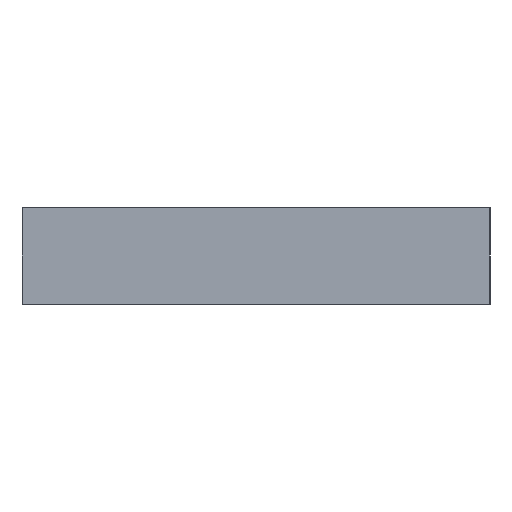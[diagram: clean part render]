
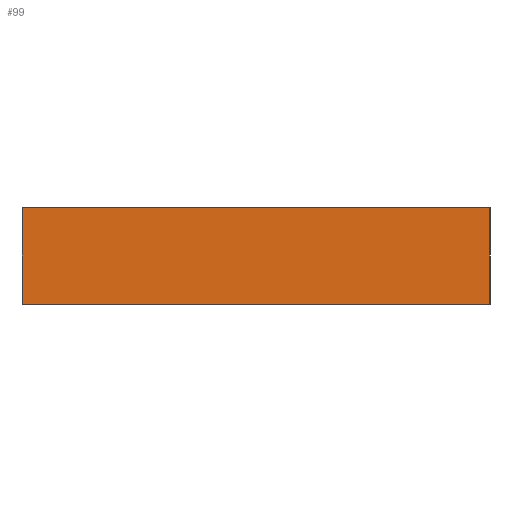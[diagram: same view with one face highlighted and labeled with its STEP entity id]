
A CAD part, left-side view. The second image highlights one B-rep face of the part: STEP entity #99.
In plain terms, the highlighted planar face has unit normal (-1, 0, 0).
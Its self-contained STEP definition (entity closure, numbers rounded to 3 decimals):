
#99 = ADVANCED_FACE( '', ( #193 ), #194, .F. );
#193 = FACE_OUTER_BOUND( '', #271, .T. );
#194 = PLANE( '', #272 );
#271 = EDGE_LOOP( '', ( #404, #405, #406, #407 ) );
#272 = AXIS2_PLACEMENT_3D( '', #408, #409, #410 );
#404 = ORIENTED_EDGE( '', *, *, #425, .T. );
#405 = ORIENTED_EDGE( '', *, *, #437, .F. );
#406 = ORIENTED_EDGE( '', *, *, #449, .F. );
#407 = ORIENTED_EDGE( '', *, *, #441, .T. );
#408 = CARTESIAN_POINT( '', ( -6., 0., 3.5 ) );
#409 = DIRECTION( '', ( 1., 0., 0. ) );
#410 = DIRECTION( '', ( 0., 0., -1. ) );
#425 = EDGE_CURVE( '', #479, #483, #485, .T. );
#437 = EDGE_CURVE( '', #503, #483, #505, .T. );
#441 = EDGE_CURVE( '', #510, #479, #511, .T. );
#449 = EDGE_CURVE( '', #510, #503, #522, .T. );
#479 = VERTEX_POINT( '', #553 );
#483 = VERTEX_POINT( '', #559 );
#485 = LINE( '', #562, #563 );
#503 = VERTEX_POINT( '', #587 );
#505 = LINE( '', #590, #591 );
#510 = VERTEX_POINT( '', #596 );
#511 = LINE( '', #597, #598 );
#522 = LINE( '', #614, #615 );
#553 = CARTESIAN_POINT( '', ( -6., 0., -3.5 ) );
#559 = CARTESIAN_POINT( '', ( -6., -34., -3.5 ) );
#562 = CARTESIAN_POINT( '', ( -6., 0., -3.5 ) );
#563 = VECTOR( '', #651, 1000. );
#587 = CARTESIAN_POINT( '', ( -6., -34., 3.5 ) );
#590 = CARTESIAN_POINT( '', ( -6., -34., 3.5 ) );
#591 = VECTOR( '', #665, 1000. );
#596 = CARTESIAN_POINT( '', ( -6., 0., 3.5 ) );
#597 = CARTESIAN_POINT( '', ( -6., 0., 3.5 ) );
#598 = VECTOR( '', #669, 1000. );
#614 = CARTESIAN_POINT( '', ( -6., 0., 3.5 ) );
#615 = VECTOR( '', #675, 1000. );
#651 = DIRECTION( '', ( 0., -1., 0. ) );
#665 = DIRECTION( '', ( 0., 0., -1. ) );
#669 = DIRECTION( '', ( 0., 0., -1. ) );
#675 = DIRECTION( '', ( 0., -1., 0. ) );
